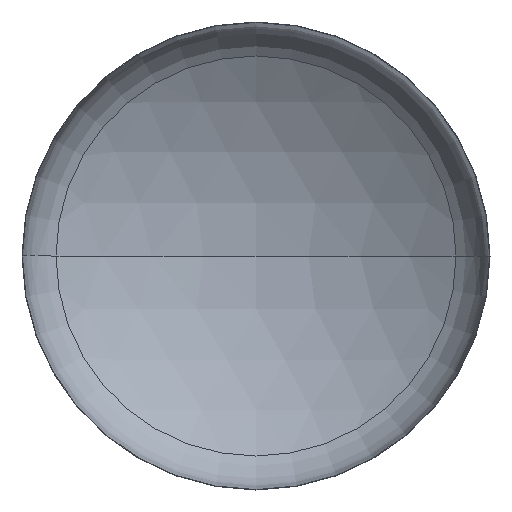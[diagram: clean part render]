
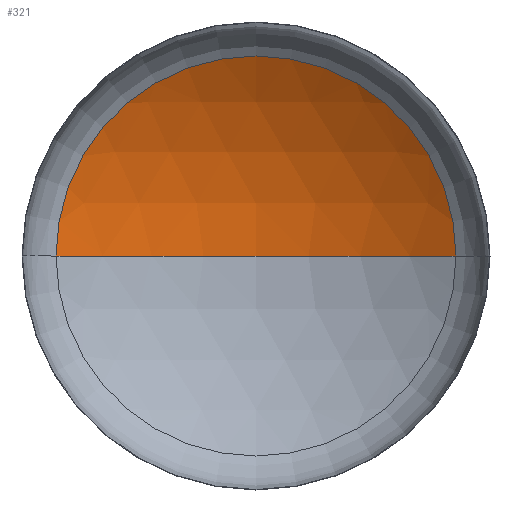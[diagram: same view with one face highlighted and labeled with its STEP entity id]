
A CAD part, front view. The second image highlights one B-rep face of the part: STEP entity #321.
In plain terms, the highlighted spherical face has radius 5200 mm.
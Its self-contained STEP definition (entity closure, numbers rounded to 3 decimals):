
#6 = DIRECTION ( 'NONE',  ( -1., 0., 0. ) ) ;
#8 = EDGE_CURVE ( 'NONE', #285, #176, #253, .T. ) ;
#28 = CARTESIAN_POINT ( 'NONE',  ( 0., 1669.723, 0. ) ) ;
#33 = DIRECTION ( 'NONE',  ( 1., 0., 0. ) ) ;
#45 = AXIS2_PLACEMENT_3D ( 'NONE', #239, #49, #33 ) ;
#49 = DIRECTION ( 'NONE',  ( 0., 0., 1. ) ) ;
#72 = CARTESIAN_POINT ( 'NONE',  ( 0., -3530.277, 0. ) ) ;
#84 = CIRCLE ( 'NONE', #93, 5200. ) ;
#93 = AXIS2_PLACEMENT_3D ( 'NONE', #116, #212, #6 ) ;
#94 = CARTESIAN_POINT ( 'NONE',  ( 2778.286, 865.304, 0. ) ) ;
#104 = FACE_OUTER_BOUND ( 'NONE', #380, .T. ) ;
#112 = CARTESIAN_POINT ( 'NONE',  ( -2778.286, 865.304, 0. ) ) ;
#116 = CARTESIAN_POINT ( 'NONE',  ( 0., -3530.277, 0. ) ) ;
#156 = DIRECTION ( 'NONE',  ( 1., 0., 0. ) ) ;
#164 = ORIENTED_EDGE ( 'NONE', *, *, #398, .T. ) ;
#171 = CIRCLE ( 'NONE', #45, 5200. ) ;
#176 = VERTEX_POINT ( 'NONE', #112 ) ;
#181 = DIRECTION ( 'NONE',  ( 0., -1., 0. ) ) ;
#186 = CARTESIAN_POINT ( 'NONE',  ( 0., 865.304, 0. ) ) ;
#193 = DIRECTION ( 'NONE',  ( 0., 0., -1. ) ) ;
#208 = ORIENTED_EDGE ( 'NONE', *, *, #8, .T. ) ;
#212 = DIRECTION ( 'NONE',  ( 0., 0., -1. ) ) ;
#239 = CARTESIAN_POINT ( 'NONE',  ( 0., -3530.277, 0. ) ) ;
#253 = CIRCLE ( 'NONE', #256, 2778.286 ) ;
#256 = AXIS2_PLACEMENT_3D ( 'NONE', #186, #181, #156 ) ;
#273 = SPHERICAL_SURFACE ( 'NONE', #348, 5200. ) ;
#280 = ORIENTED_EDGE ( 'NONE', *, *, #378, .F. ) ;
#285 = VERTEX_POINT ( 'NONE', #94 ) ;
#321 = ADVANCED_FACE ( 'NONE', ( #104 ), #273, .F. ) ;
#348 = AXIS2_PLACEMENT_3D ( 'NONE', #72, #193, #406 ) ;
#366 = VERTEX_POINT ( 'NONE', #28 ) ;
#378 = EDGE_CURVE ( 'NONE', #366, #176, #171, .T. ) ;
#380 = EDGE_LOOP ( 'NONE', ( #280, #164, #208 ) ) ;
#398 = EDGE_CURVE ( 'NONE', #366, #285, #84, .T. ) ;
#406 = DIRECTION ( 'NONE',  ( -1., 0., 0. ) ) ;
